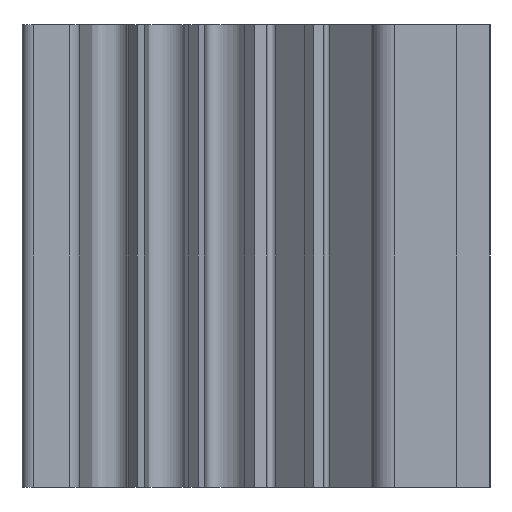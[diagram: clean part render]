
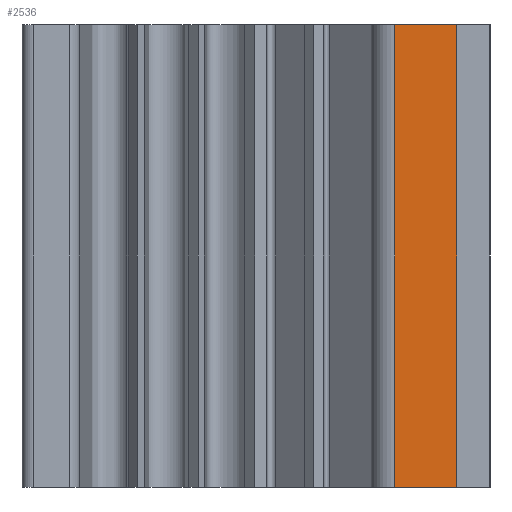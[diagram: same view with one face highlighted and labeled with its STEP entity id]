
A CAD part, left-side view. The second image highlights one B-rep face of the part: STEP entity #2536.
In plain terms, the highlighted planar face has unit normal (-1, 0, 0).
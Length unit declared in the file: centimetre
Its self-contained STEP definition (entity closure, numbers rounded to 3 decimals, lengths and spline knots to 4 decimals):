
#177=VERTEX_POINT('',#3276);
#178=VERTEX_POINT('',#3278);
#180=VERTEX_POINT('',#3284);
#181=VERTEX_POINT('',#3286);
#435=VECTOR('',#2793,1.);
#438=VECTOR('',#2797,1.);
#439=VECTOR('',#2798,1.);
#440=VECTOR('',#2799,1.);
#774=LINE('',#3277,#435);
#777=LINE('',#3283,#438);
#778=LINE('',#3285,#439);
#779=LINE('',#3287,#440);
#1113=EDGE_CURVE('',#178,#177,#774,.T.);
#1116=EDGE_CURVE('',#177,#180,#777,.T.);
#1117=EDGE_CURVE('',#181,#180,#778,.T.);
#1118=EDGE_CURVE('',#178,#181,#779,.T.);
#1503=ORIENTED_EDGE('',*,*,#1116,.T.);
#1504=ORIENTED_EDGE('',*,*,#1117,.F.);
#1505=ORIENTED_EDGE('',*,*,#1118,.F.);
#1506=ORIENTED_EDGE('',*,*,#1113,.T.);
#2274=EDGE_LOOP('',(#1503,#1504,#1505,#1506));
#2405=FACE_BOUND('',#2274,.T.);
#2536=ADVANCED_FACE('',(#2405),#4588,.T.);
#2667=AXIS2_PLACEMENT_3D('',#3282,#2796,$);
#2793=DIRECTION('',(0.,0.,1.));
#2796=DIRECTION('',(-1.,0.,0.));
#2797=DIRECTION('',(0.,1.,0.));
#2798=DIRECTION('',(0.,0.,1.));
#2799=DIRECTION('',(0.,1.,0.));
#3276=CARTESIAN_POINT('',(-3.0772,-2.5228,5.));
#3277=CARTESIAN_POINT('',(-3.0772,-2.5228,0.));
#3278=CARTESIAN_POINT('',(-3.0772,-2.5228,0.));
#3282=CARTESIAN_POINT('',(-3.0772,-2.1874,0.));
#3283=CARTESIAN_POINT('',(-3.0772,-2.5228,5.));
#3284=CARTESIAN_POINT('',(-3.0772,-1.852,5.));
#3285=CARTESIAN_POINT('',(-3.0772,-1.852,0.));
#3286=CARTESIAN_POINT('',(-3.0772,-1.852,0.));
#3287=CARTESIAN_POINT('',(-3.0772,-2.5228,0.));
#4588=PLANE('',#2667);
